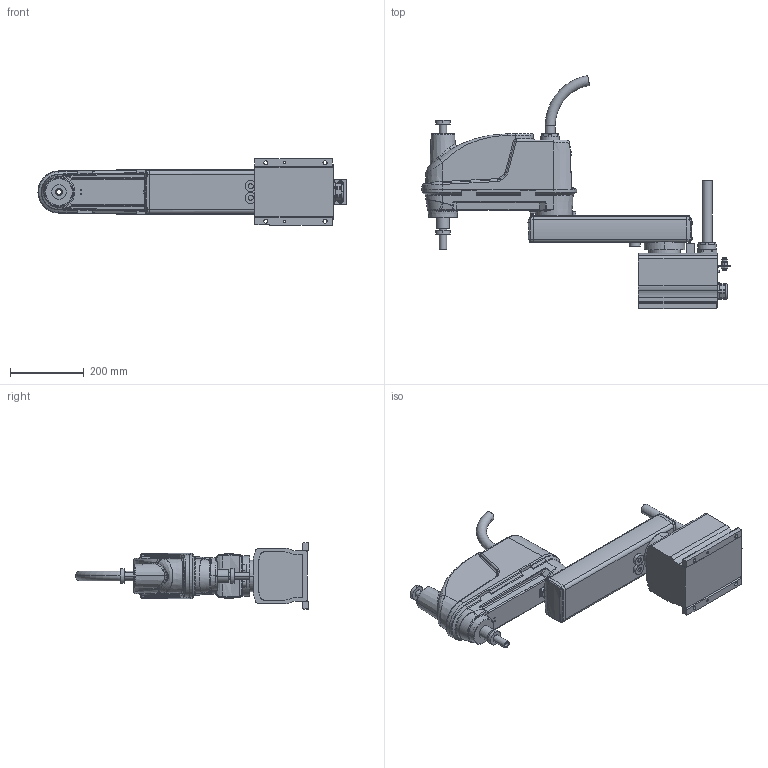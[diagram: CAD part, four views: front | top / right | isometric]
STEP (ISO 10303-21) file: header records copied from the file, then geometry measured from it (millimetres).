
FILE_DESCRIPTION((''),'2;1');
FILE_NAME('THL600_3D_ASM','2024-06-21T10:25:47',('15575'),(''),'CREO PARAMETRIC BY PTC INC, 2020454','CREO PARAMETRIC BY PTC INC, 2020454','');
FILE_SCHEMA(('AUTOMOTIVE_DESIGN { 1 0 10303 214 1 1 1 1 }'));
Products named in the file (6): THL567_BASE; THL600_1STARM; THL600_BALL_SCREW; THL600_COVER; THL600_2ND_ARM_NEW; THL600_3D_ASM
Assembly tree (5 placements, depth 2):
  THL600_3D_ASM
    THL567_BASE
    THL600_1STARM
    THL600_BALL_SCREW
    THL600_COVER
    THL600_2ND_ARM_NEW
Bounding box: 833.99 x 630.56 x 180 mm (x, y, z)
Volume: 6631915 mm3; surface area: 1213992.4 mm2
Topology: 5 solids, 13 shells, 1515 faces, 3675 edges, 2335 vertices
Faces by surface type: plane 610, cylinder 565, bspline 173, cone 79, torus 62, sphere 20, revolution 6
Entity records: 64480 total; most frequent: CARTESIAN_POINT 21747, ORIENTED_EDGE 7334, DIRECTION 7249, EDGE_CURVE 3667, AXIS2_PLACEMENT_3D 2729, VERTEX_POINT 2327, VECTOR 1767, LINE 1767
